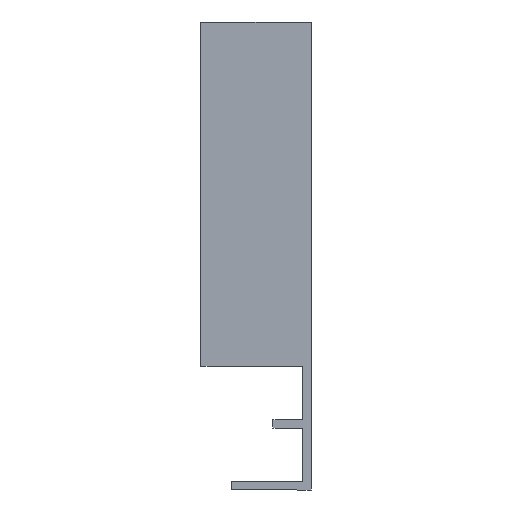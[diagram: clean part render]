
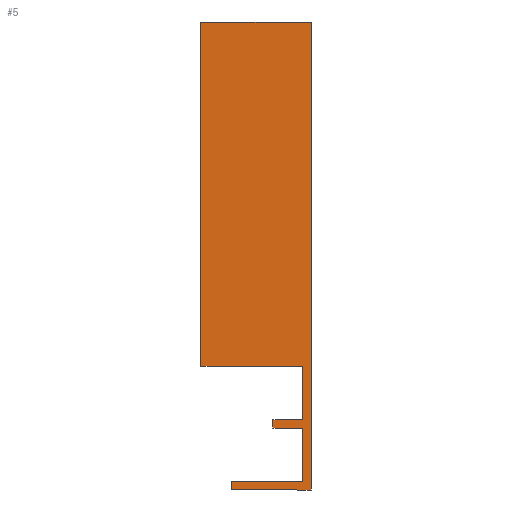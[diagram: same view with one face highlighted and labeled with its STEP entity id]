
A CAD part, left-side view. The second image highlights one B-rep face of the part: STEP entity #5.
In plain terms, the highlighted planar face has unit normal (-1, 0, 0).
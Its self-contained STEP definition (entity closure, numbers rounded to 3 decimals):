
#5 = ADVANCED_FACE ( 'NONE', ( #63 ), #423, .T. ) ;
#18 = CARTESIAN_POINT ( 'NONE',  ( -538.5, -4.3, 0. ) ) ;
#24 = LINE ( 'NONE', #507, #175 ) ;
#63 = FACE_OUTER_BOUND ( 'NONE', #140, .T. ) ;
#74 = ORIENTED_EDGE ( 'NONE', *, *, #333, .T. ) ;
#140 = EDGE_LOOP ( 'NONE', ( #171, #157, #155, #156, #144, #145, #74, #166, #172, #164, #160, #159 ) ) ;
#144 = ORIENTED_EDGE ( 'NONE', *, *, #355, .T. ) ;
#145 = ORIENTED_EDGE ( 'NONE', *, *, #328, .T. ) ;
#155 = ORIENTED_EDGE ( 'NONE', *, *, #331, .T. ) ;
#156 = ORIENTED_EDGE ( 'NONE', *, *, #354, .T. ) ;
#157 = ORIENTED_EDGE ( 'NONE', *, *, #352, .T. ) ;
#159 = ORIENTED_EDGE ( 'NONE', *, *, #334, .T. ) ;
#160 = ORIENTED_EDGE ( 'NONE', *, *, #372, .T. ) ;
#164 = ORIENTED_EDGE ( 'NONE', *, *, #357, .T. ) ;
#166 = ORIENTED_EDGE ( 'NONE', *, *, #332, .T. ) ;
#171 = ORIENTED_EDGE ( 'NONE', *, *, #330, .T. ) ;
#172 = ORIENTED_EDGE ( 'NONE', *, *, #337, .T. ) ;
#174 = LINE ( 'NONE', #511, #195 ) ;
#175 = VECTOR ( 'NONE', #510, 1000. ) ;
#178 = VECTOR ( 'NONE', #536, 1000. ) ;
#179 = LINE ( 'NONE', #513, #180 ) ;
#180 = VECTOR ( 'NONE', #514, 1000. ) ;
#181 = LINE ( 'NONE', #515, #182 ) ;
#182 = VECTOR ( 'NONE', #516, 1000. ) ;
#183 = LINE ( 'NONE', #517, #184 ) ;
#184 = VECTOR ( 'NONE', #518, 1000. ) ;
#185 = LINE ( 'NONE', #519, #186 ) ;
#186 = VECTOR ( 'NONE', #520, 1000. ) ;
#187 = LINE ( 'NONE', #521, #188 ) ;
#188 = VECTOR ( 'NONE', #522, 1000. ) ;
#191 = LINE ( 'NONE', #525, #192 ) ;
#192 = VECTOR ( 'NONE', #526, 1000. ) ;
#195 = VECTOR ( 'NONE', #531, 1000. ) ;
#198 = LINE ( 'NONE', #527, #178 ) ;
#200 = LINE ( 'NONE', #537, #201 ) ;
#201 = VECTOR ( 'NONE', #538, 1000. ) ;
#204 = LINE ( 'NONE', #541, #205 ) ;
#205 = VECTOR ( 'NONE', #542, 1000. ) ;
#216 = LINE ( 'NONE', #273, #217 ) ;
#217 = VECTOR ( 'NONE', #274, 1000. ) ;
#233 = CARTESIAN_POINT ( 'NONE',  ( -538.5, -4.3, -7.75 ) ) ;
#235 = CARTESIAN_POINT ( 'NONE',  ( -538.5, 0., -7.75 ) ) ;
#237 = CARTESIAN_POINT ( 'NONE',  ( -538.5, 0., -8.95 ) ) ;
#239 = CARTESIAN_POINT ( 'NONE',  ( -538.5, -4.3, -8.95 ) ) ;
#265 = CARTESIAN_POINT ( 'NONE',  ( -538.5, -5.5, 49.7 ) ) ;
#270 = CARTESIAN_POINT ( 'NONE',  ( -538.5, -4.3, -16.7 ) ) ;
#273 = CARTESIAN_POINT ( 'NONE',  ( -538.5, 0., -8.95 ) ) ;
#274 = DIRECTION ( 'NONE',  ( 0., -1., 0. ) ) ;
#285 = CARTESIAN_POINT ( 'NONE',  ( -538.5, 6., -16.7 ) ) ;
#292 = CARTESIAN_POINT ( 'NONE',  ( -538.5, -5.5, -17.9 ) ) ;
#297 = CARTESIAN_POINT ( 'NONE',  ( -538.5, 6., -17.9 ) ) ;
#303 = CARTESIAN_POINT ( 'NONE',  ( -538.5, 10.4, 49.7 ) ) ;
#306 = CARTESIAN_POINT ( 'NONE',  ( -538.5, 10.4, 0. ) ) ;
#328 = EDGE_CURVE ( 'NONE', #405, #408, #24, .T. ) ;
#330 = EDGE_CURVE ( 'NONE', #400, #389, #179, .T. ) ;
#331 = EDGE_CURVE ( 'NONE', #402, #396, #181, .T. ) ;
#332 = EDGE_CURVE ( 'NONE', #410, #412, #183, .T. ) ;
#333 = EDGE_CURVE ( 'NONE', #408, #410, #185, .T. ) ;
#334 = EDGE_CURVE ( 'NONE', #418, #400, #187, .T. ) ;
#337 = EDGE_CURVE ( 'NONE', #412, #414, #191, .T. ) ;
#338 = AXIS2_PLACEMENT_3D ( 'NONE', #426, #435, #436 ) ;
#352 = EDGE_CURVE ( 'NONE', #389, #402, #174, .T. ) ;
#354 = EDGE_CURVE ( 'NONE', #396, #404, #198, .T. ) ;
#355 = EDGE_CURVE ( 'NONE', #404, #405, #200, .T. ) ;
#357 = EDGE_CURVE ( 'NONE', #414, #416, #204, .T. ) ;
#372 = EDGE_CURVE ( 'NONE', #416, #418, #216, .T. ) ;
#389 = VERTEX_POINT ( 'NONE', #285 ) ;
#396 = VERTEX_POINT ( 'NONE', #292 ) ;
#400 = VERTEX_POINT ( 'NONE', #270 ) ;
#402 = VERTEX_POINT ( 'NONE', #297 ) ;
#404 = VERTEX_POINT ( 'NONE', #265 ) ;
#405 = VERTEX_POINT ( 'NONE', #303 ) ;
#408 = VERTEX_POINT ( 'NONE', #306 ) ;
#410 = VERTEX_POINT ( 'NONE', #18 ) ;
#412 = VERTEX_POINT ( 'NONE', #233 ) ;
#414 = VERTEX_POINT ( 'NONE', #235 ) ;
#416 = VERTEX_POINT ( 'NONE', #237 ) ;
#418 = VERTEX_POINT ( 'NONE', #239 ) ;
#423 = PLANE ( 'NONE',  #338 ) ;
#426 = CARTESIAN_POINT ( 'NONE',  ( -538.5, 6., -16.7 ) ) ;
#435 = DIRECTION ( 'NONE',  ( -1., 0., 0. ) ) ;
#436 = DIRECTION ( 'NONE',  ( 0., -1., 0. ) ) ;
#507 = CARTESIAN_POINT ( 'NONE',  ( -538.5, 10.4, 49.7 ) ) ;
#510 = DIRECTION ( 'NONE',  ( 0., 0., -1. ) ) ;
#511 = CARTESIAN_POINT ( 'NONE',  ( -538.5, 6., -16.7 ) ) ;
#513 = CARTESIAN_POINT ( 'NONE',  ( -538.5, -4.3, -16.7 ) ) ;
#514 = DIRECTION ( 'NONE',  ( 0., 1., 0. ) ) ;
#515 = CARTESIAN_POINT ( 'NONE',  ( -538.5, 6., -17.9 ) ) ;
#516 = DIRECTION ( 'NONE',  ( 0., -1., 0. ) ) ;
#517 = CARTESIAN_POINT ( 'NONE',  ( -538.5, -4.3, 0. ) ) ;
#518 = DIRECTION ( 'NONE',  ( 0., 0., -1. ) ) ;
#519 = CARTESIAN_POINT ( 'NONE',  ( -538.5, 10.4, 0. ) ) ;
#520 = DIRECTION ( 'NONE',  ( 0., -1., 0. ) ) ;
#521 = CARTESIAN_POINT ( 'NONE',  ( -538.5, -4.3, -8.95 ) ) ;
#522 = DIRECTION ( 'NONE',  ( 0., 0., -1. ) ) ;
#525 = CARTESIAN_POINT ( 'NONE',  ( -538.5, -4.3, -7.75 ) ) ;
#526 = DIRECTION ( 'NONE',  ( 0., 1., 0. ) ) ;
#527 = CARTESIAN_POINT ( 'NONE',  ( -538.5, -5.5, -17.9 ) ) ;
#531 = DIRECTION ( 'NONE',  ( 0., 0., -1. ) ) ;
#536 = DIRECTION ( 'NONE',  ( 0., 0., 1. ) ) ;
#537 = CARTESIAN_POINT ( 'NONE',  ( -538.5, -5.5, 49.7 ) ) ;
#538 = DIRECTION ( 'NONE',  ( 0., 1., 0. ) ) ;
#541 = CARTESIAN_POINT ( 'NONE',  ( -538.5, 0., -7.75 ) ) ;
#542 = DIRECTION ( 'NONE',  ( 0., 0., -1. ) ) ;
